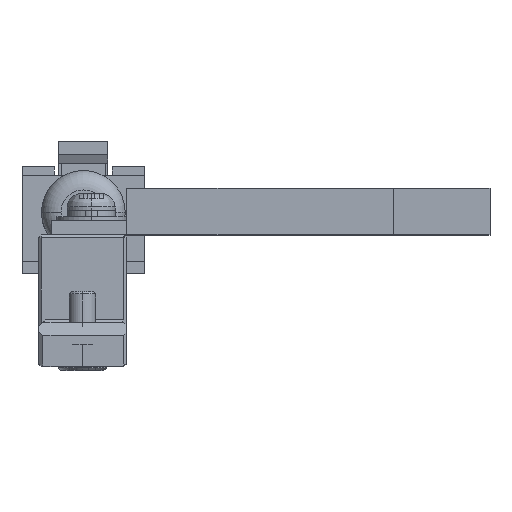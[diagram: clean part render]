
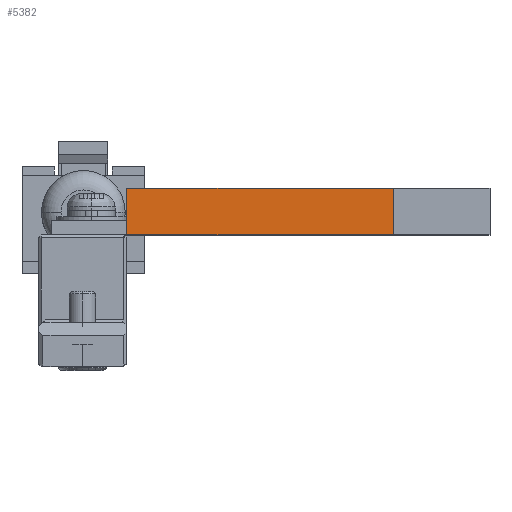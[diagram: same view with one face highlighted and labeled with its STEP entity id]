
A CAD part, top view. The second image highlights one B-rep face of the part: STEP entity #5382.
In plain terms, the highlighted planar face has unit normal (0, 0, 1).
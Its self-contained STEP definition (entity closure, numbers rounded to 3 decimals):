
#332 = EDGE_LOOP ( 'NONE', ( #1385, #1386, #1387, #1388 ) ) ;
#1385 = ORIENTED_EDGE ( 'NONE', *, *, #6330, .T. ) ;
#1386 = ORIENTED_EDGE ( 'NONE', *, *, #6333, .F. ) ;
#1387 = ORIENTED_EDGE ( 'NONE', *, *, #6334, .F. ) ;
#1388 = ORIENTED_EDGE ( 'NONE', *, *, #6335, .T. ) ;
#1813 = CARTESIAN_POINT ( 'NONE',  ( 10.056, 15., -4.25 ) ) ;
#2047 = VERTEX_POINT ( 'NONE', #2260 ) ;
#2080 = VERTEX_POINT ( 'NONE', #1813 ) ;
#2087 = VERTEX_POINT ( 'NONE', #2343 ) ;
#2094 = VERTEX_POINT ( 'NONE', #2352 ) ;
#2260 = CARTESIAN_POINT ( 'NONE',  ( 40.5, 20.3, -4.25 ) ) ;
#2343 = CARTESIAN_POINT ( 'NONE',  ( 40.5, 15., -4.25 ) ) ;
#2352 = CARTESIAN_POINT ( 'NONE',  ( 10.056, 20.3, -4.25 ) ) ;
#3173 = PLANE ( 'NONE',  #4926 ) ;
#3175 = CARTESIAN_POINT ( 'NONE',  ( 40.5, 20.3, -4.25 ) ) ;
#3179 = FACE_OUTER_BOUND ( 'NONE', #332, .T. ) ;
#3181 = DIRECTION ( 'NONE',  ( 0., 0., -1. ) ) ;
#3182 = DIRECTION ( 'NONE',  ( -1., 0., 0. ) ) ;
#4926 = AXIS2_PLACEMENT_3D ( 'NONE', #3175, #3181, #3182 ) ;
#5062 = VECTOR ( 'NONE', #5808, 1000. ) ;
#5063 = VECTOR ( 'NONE', #5803, 1000. ) ;
#5065 = VECTOR ( 'NONE', #5806, 1000. ) ;
#5071 = VECTOR ( 'NONE', #5794, 1000. ) ;
#5382 = ADVANCED_FACE ( 'NONE', ( #3179 ), #3173, .F. ) ;
#5771 = LINE ( 'NONE', #5792, #5071 ) ;
#5789 = LINE ( 'NONE', #5804, #5065 ) ;
#5792 = CARTESIAN_POINT ( 'NONE',  ( 40.5, 15., -4.25 ) ) ;
#5793 = LINE ( 'NONE', #5807, #5062 ) ;
#5794 = DIRECTION ( 'NONE',  ( 1., 0., 0. ) ) ;
#5800 = LINE ( 'NONE', #5802, #5063 ) ;
#5802 = CARTESIAN_POINT ( 'NONE',  ( 40.5, 20.3, -4.25 ) ) ;
#5803 = DIRECTION ( 'NONE',  ( 0., -1., 0. ) ) ;
#5804 = CARTESIAN_POINT ( 'NONE',  ( 40.5, 20.3, -4.25 ) ) ;
#5806 = DIRECTION ( 'NONE',  ( 1., 0., 0. ) ) ;
#5807 = CARTESIAN_POINT ( 'NONE',  ( 10.056, 20.3, -4.25 ) ) ;
#5808 = DIRECTION ( 'NONE',  ( 0., -1., 0. ) ) ;
#6330 = EDGE_CURVE ( 'NONE', #2080, #2087, #5771, .T. ) ;
#6333 = EDGE_CURVE ( 'NONE', #2047, #2087, #5800, .T. ) ;
#6334 = EDGE_CURVE ( 'NONE', #2094, #2047, #5789, .T. ) ;
#6335 = EDGE_CURVE ( 'NONE', #2094, #2080, #5793, .T. ) ;
